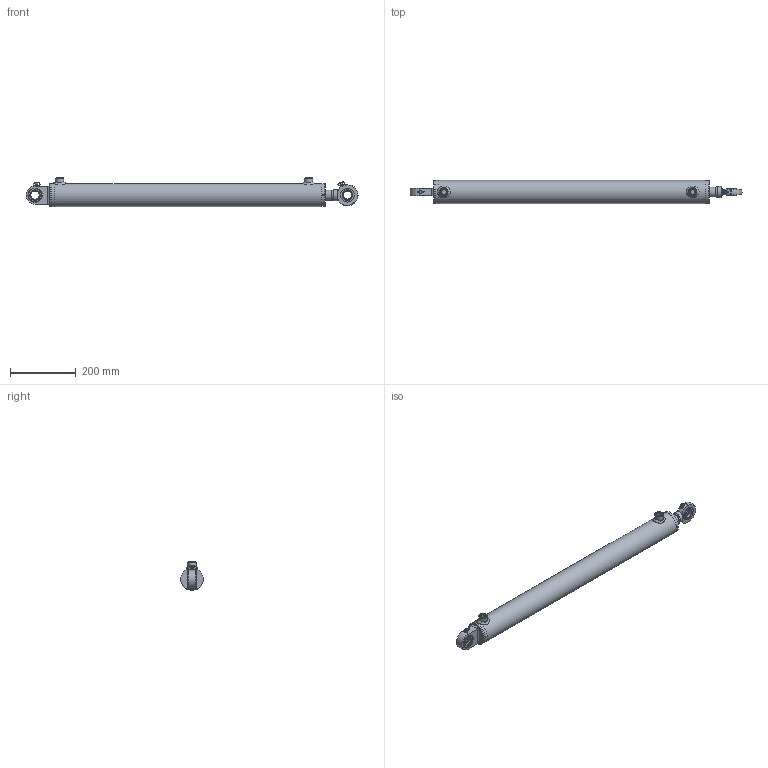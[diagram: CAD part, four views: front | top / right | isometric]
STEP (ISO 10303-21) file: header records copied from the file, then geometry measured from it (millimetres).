
FILE_DESCRIPTION( ( 'Unknown' ), '1' );
FILE_NAME( 'E:/LIBRERIA_3d/CILINDRI/HMB/HMB3300700.stp', 'Unknown', ( 'Unknown' ), ( 'Unknown' ), 'PSStep 17.0.49', 'Unknown', ' ' );
FILE_SCHEMA( ( 'AUTOMOTIVE_DESIGN { 1 0 10303 214 1 1 1 1 }' ) );
Length unit declared in the file: millimetre
Products named in the file (37): CSTSF025C0; tsc25c_CORPO; AN00006001; CT00060020; CG07006030; CSTSF025N0; An00006001; CSTS025N_CORPO; CSAI002042; CSAI002042-oa0; STL3500700-oa7; Saldatura d'angolo 1-oa5; MAT_PRIMA_TUBO_FT07006000-oa6; CBSC220600; CSTS025C00; cge0250000; APGR013000; HM03300700; Saldatura con preparazione 1-oa3; Saldatura d'angolo 1-oa4; CF00060070; CBS0600000; CDA0002015; APG0600000; SBL3030700; CSTS025N00; CGE0250000; Assem1; Saldatura d'angolo 1-oa1; Saldatura d'angolo 2-oa2
Assembly tree (32 placements, depth 4):
  Saldatura d'angolo 1-oa5
  Saldatura d'angolo 1-oa5
  Saldatura d'angolo 1-oa4
  Saldatura d'angolo 1-oa4
  Assem1
    APGR013000  x2
    CSTS025N00
      CGE0250000
      APGR013000
      CSTSF025N0
        An00006001
        CSTS025N_CORPO
        CSAI002042
        CSAI002042-oa0
    CSTS025C00
      cge0250000
      APGR013000
      CSTSF025C0
        tsc25c_CORPO
        AN00006001
    HM03300700
      Saldatura con preparazione 1-oa3
      Saldatura con preparazione 1-oa3
      CF00060070
      CBS0600000
      CDA0002015
      APG0600000  x2
      SBL3030700
      CG07006030
        CG07006030
      CT00060020
        CT00060020
      STL3500700-oa7
        MAT_PRIMA_TUBO_FT07006000-oa6
        CBSC220600
Bounding box: 1009.5 x 70 x 89 mm (x, y, z)
Volume: 1808670.2 mm3; surface area: 543491.8 mm2
Topology: 32 solids, 32 shells, 391 faces, 808 edges, 514 vertices
Faces by surface type: plane 156, cylinder 103, cone 47, torus 46, bspline 32, sphere 7
Full cylindrical faces by diameter (mm): 2 x4, 4 x1, 4.25 x1, 5 x12, 6 x4, 7 x2, 8 x4, 9 x4, 14.95 x2, 16 x2, 16.6 x2, 19.4 x1, 20 x5, 22 x2, 24.5 x1, 25 x4, 26 x4, 30 x5, 32 x1, 33 x1, 33.5 x1, 38.6 x1, 40 x3, 42 x8, 44 x1, 55 x1, 55.39 x2, 58.65 x2, 59.9 x1, 60 x1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
Entity records: 14268 total; most frequent: CARTESIAN_POINT 5271, DIRECTION 1372, ORIENTED_EDGE 884, AXIS2_PLACEMENT_3D 623, EDGE_LOOP 594, FACE_OUTER_BOUND 465, EDGE_CURVE 442, VERTEX_POINT 378
